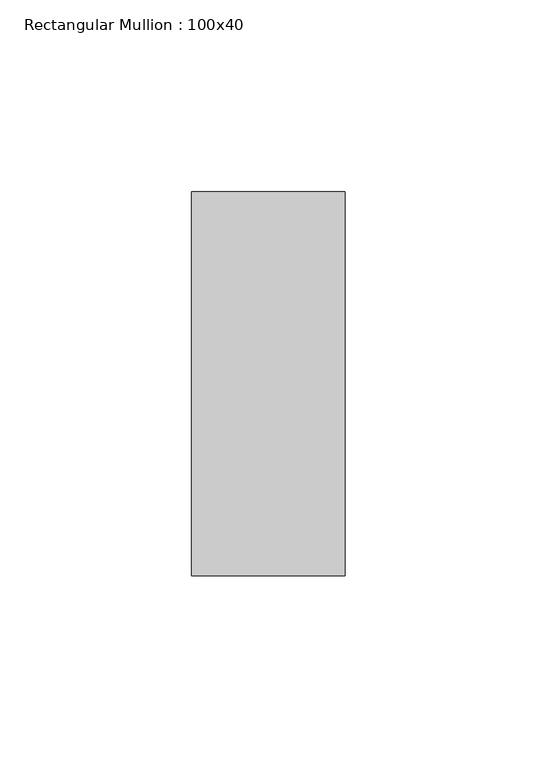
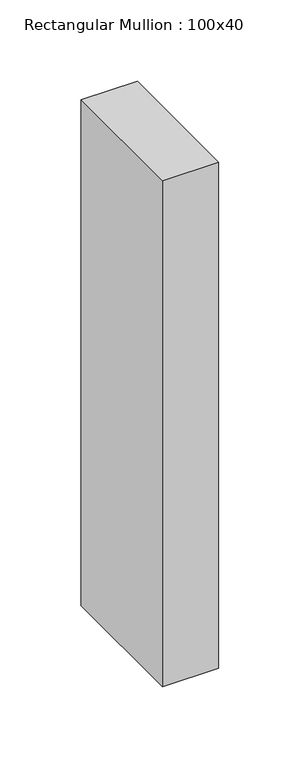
"""IFC4 building model written with IfcOpenShell, lengths in millimetres: member geometry, Rectangular Mullion : 100x40."""

from ifc_helpers import new_model, si_unit, frame, origin, place, context, project, spatial, polyline, outline, extrude, source, transform, mapped, element, save


def rectangular_mullion_100x40_f53edade(model_context):
    return source(origin(), model_context, "Body", "SweptSolid", [
        extrude(outline(polyline([(0.0, 50.0), (0.0, -50.0), (-40.0, -50.0), (-40.0, 50.0), (0.0, 50.0)])), frame((0.0, 0.0, -380.0), z_axis=(0.0, 0.0, 1.0), x_axis=(1.0, 0.0, 0.0)), (0.0, 0.0, 1.0), 380.0),
    ])


if __name__ == "__main__":
    model = new_model("IFC4")
    model_context = context("Model", 3, world=origin())
    ifc_project = project(units=[si_unit("LENGTHUNIT", "METRE", prefix="MILLI")], contexts=[model_context])
    site = spatial("IfcSite", under=ifc_project)
    building = spatial("IfcBuilding", under=site)
    placement = place(None, origin())
    rectangular_mullion_100x40_shape = rectangular_mullion_100x40_f53edade(model_context)
    element("IfcMember", 1, ObjectType="Rectangular Mullion : 100x40", at=placement, inside=building, context=model_context, shape_type="MappedRepresentation", body=[
        mapped(rectangular_mullion_100x40_shape, transform((0.0, 0.0, 0.0), x_axis=(1.0, 0.0, 0.0), y_axis=(0.0, 1.0, 0.0), z_axis=(0.0, 0.0, 1.0))),
    ])
    save(model, "model.ifc")
